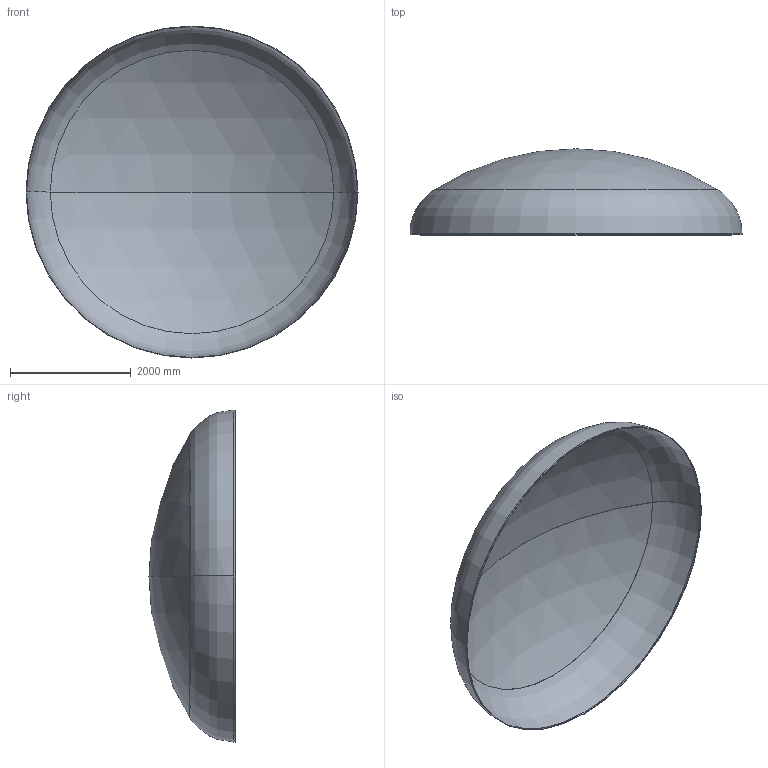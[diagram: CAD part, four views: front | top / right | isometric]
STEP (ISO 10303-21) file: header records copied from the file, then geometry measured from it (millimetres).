
FILE_DESCRIPTION (( 'STEP AP203' ), '1' );
FILE_NAME ('DIN 28013 Korbbogenform_-_Boden DIN 28013 - 5500 x 25 - I - s=8.step', '2016-07-04T10:33:32', ( '' ), ( '' ), 'SwSTEP 2.0', 'SolidWorks 2013', '' );
FILE_SCHEMA (( 'CONFIG_CONTROL_DESIGN' ));
Length unit declared in the file: millimetre
Products named in the file (1): DIN 28013 Korbbogenform_-_Boden DIN 28013 - 5500 x 25 - I - s=8
Bounding box: 5500 x 1426.44 x 5500 mm (x, y, z)
Volume: 266091293.3 mm3; surface area: 66660958.6 mm2
Topology: 1 solids, 1 shells, 13 faces, 24 edges, 14 vertices
Faces by surface type: torus 4, cylinder 4, sphere 4, plane 1
Entity records: 407 total; most frequent: DIRECTION 72, CARTESIAN_POINT 52, ORIENTED_EDGE 48, AXIS2_PLACEMENT_3D 34, EDGE_CURVE 24, CIRCLE 20, EDGE_LOOP 14, VERTEX_POINT 14
